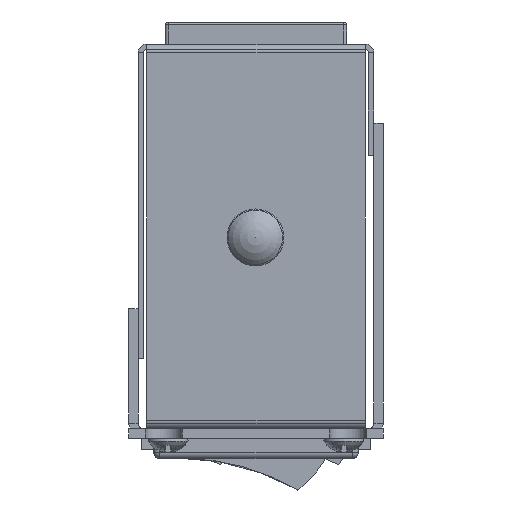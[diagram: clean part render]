
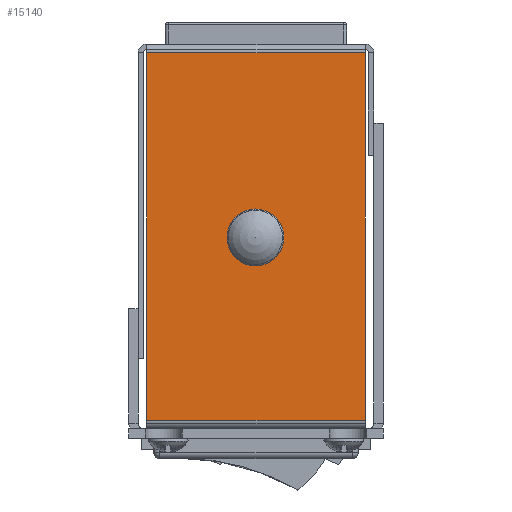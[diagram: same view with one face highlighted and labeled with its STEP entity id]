
A CAD part, left-side view. The second image highlights one B-rep face of the part: STEP entity #15140.
In plain terms, the highlighted planar face has unit normal (-1, 0, 0).
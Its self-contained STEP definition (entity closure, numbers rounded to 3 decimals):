
#819=FACE_BOUND('',#2525,.T.);
#959=CIRCLE('',#16000,2.4);
#1641=FACE_OUTER_BOUND('',#2524,.T.);
#2524=EDGE_LOOP('',(#10791,#10792,#10793,#10794));
#2525=EDGE_LOOP('',(#10795));
#3581=LINE('',#21665,#5158);
#3621=LINE('',#21759,#5198);
#3624=LINE('',#21766,#5201);
#3626=LINE('',#21769,#5203);
#5158=VECTOR('',#17627,37.557);
#5198=VECTOR('',#17723,63.084);
#5201=VECTOR('',#17730,63.084);
#5203=VECTOR('',#17734,37.557);
#6675=VERTEX_POINT('',#21656);
#6678=VERTEX_POINT('',#21662);
#6679=VERTEX_POINT('',#21664);
#6705=VERTEX_POINT('',#21757);
#6707=VERTEX_POINT('',#21765);
#8204=EDGE_CURVE('',#6675,#6675,#959,.T.);
#8207=EDGE_CURVE('',#6679,#6678,#3581,.T.);
#8254=EDGE_CURVE('',#6705,#6678,#3621,.T.);
#8257=EDGE_CURVE('',#6679,#6707,#3624,.T.);
#8259=EDGE_CURVE('',#6705,#6707,#3626,.T.);
#10791=ORIENTED_EDGE('',*,*,#8207,.T.);
#10792=ORIENTED_EDGE('',*,*,#8254,.F.);
#10793=ORIENTED_EDGE('',*,*,#8259,.T.);
#10794=ORIENTED_EDGE('',*,*,#8257,.F.);
#10795=ORIENTED_EDGE('',*,*,#8204,.T.);
#14570=PLANE('',#16040);
#15140=ADVANCED_FACE('',(#1641,#819),#14570,.F.);
#16000=AXIS2_PLACEMENT_3D('',#21657,#17620,#17621);
#16040=AXIS2_PLACEMENT_3D('',#21783,#17750,#17751);
#17620=DIRECTION('center_axis',(1.,0.,0.));
#17621=DIRECTION('ref_axis',(0.,0.,-1.));
#17627=DIRECTION('',(0.,1.,0.));
#17723=DIRECTION('',(0.,0.,1.));
#17730=DIRECTION('',(0.,0.,-1.));
#17734=DIRECTION('',(0.,-1.,0.));
#17750=DIRECTION('center_axis',(1.,0.,0.));
#17751=DIRECTION('ref_axis',(0.,0.,-1.));
#21656=CARTESIAN_POINT('',(-222.25,-0.094,35.547));
#21657=CARTESIAN_POINT('Origin',(-222.25,-0.094,33.147));
#21662=CARTESIAN_POINT('',(-222.25,18.779,64.537));
#21664=CARTESIAN_POINT('',(-222.25,-18.779,64.537));
#21665=CARTESIAN_POINT('',(-222.25,-9.389,64.537));
#21757=CARTESIAN_POINT('',(-222.25,18.779,1.453));
#21759=CARTESIAN_POINT('',(-222.25,18.779,1.453));
#21765=CARTESIAN_POINT('',(-222.25,-18.779,1.453));
#21766=CARTESIAN_POINT('',(-222.25,-18.779,-1.435));
#21769=CARTESIAN_POINT('',(-222.25,0.,1.453));
#21783=CARTESIAN_POINT('Origin',(-222.25,0.,32.999));
